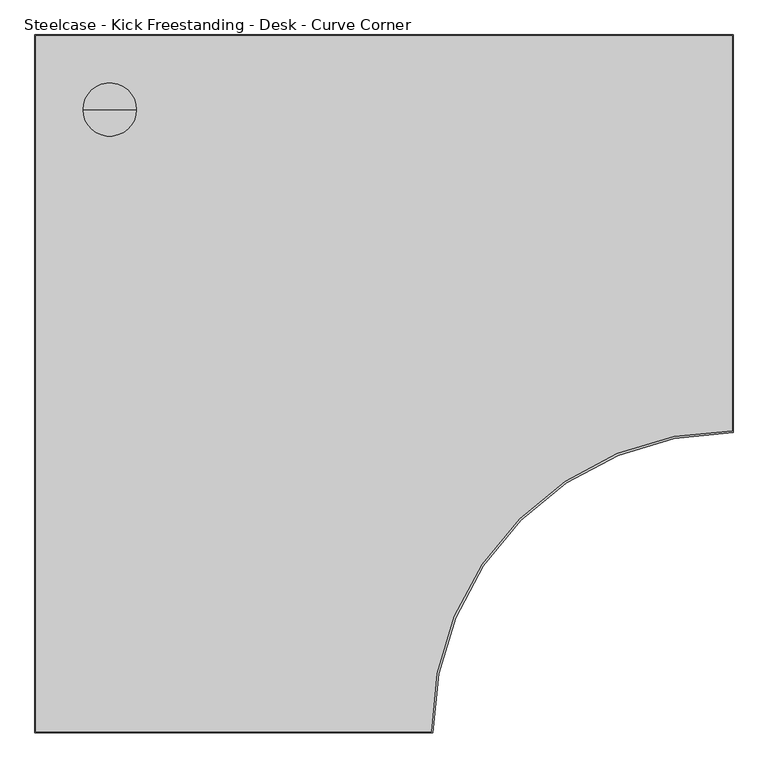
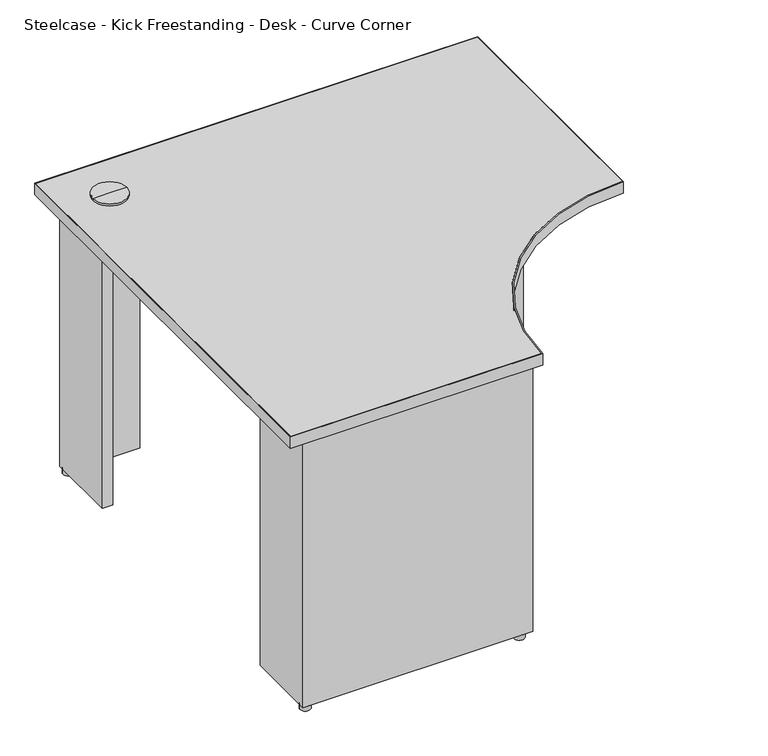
"""IFC4 building model written with IfcOpenShell, lengths in millimetres: furniture geometry, Steelcase - Kick Freestanding - Desk - Curve Corner : 24D x 42W - Left Full End Panel/Right Clear Access Support - LPL."""

from ifc_helpers import new_model, si_unit, point, frame, frame_2d, origin, origin_with_axes, place, context, project, spatial, polyline, circle_curve, trimmed, segment, composite_curve, outline, extrude, source, transform, mapped, element, save
from ifc_brep_helpers import plane_surface, cylinder_surface, advanced_brep


def steelcase_kick_freestanding_desk_curve_corner_b2214294(model_context):
    return source(origin(), model_context, "Body", "SolidModel", [
        extrude(outline(composite_curve([segment(trimmed(circle_curve(frame_2d((566.7971133, -1039.8759893)), 12.7), [point((554.0971133, -1039.8759893))], [point((579.4971133, -1039.8759893))], False, "CARTESIAN"), True, "CONTINUOUS"), segment(trimmed(circle_curve(frame_2d((566.7971133, -1039.8759893)), 12.7), [point((579.4971133, -1039.8759893))], [point((554.0971133, -1039.8759893))], False, "CARTESIAN"), True, "CONTINUOUS")], self_intersect=False)), origin_with_axes(), (0.0, 0.0, 1.0), 12.446),
        extrude(outline(polyline([(874.0393822, -63.5), (874.0393822, -38.1), (1051.8393579, -38.1), (1051.8393579, -215.8999939), (1025.9313463, -215.8999939), (1025.9313463, -63.5), (874.0393822, -63.5)])), frame((0.0, 0.0, 12.446), z_axis=(0.0, 0.0, 1.0), x_axis=(1.0, 0.0, 0.0)), (0.0, 0.0, 1.0), 682.498),
        extrude(outline(polyline([(215.8999939, -63.5), (63.5, -63.5), (63.5, -215.8999939), (38.1, -215.8999939), (38.1, -38.1), (215.8999939, -38.1), (215.8999939, -63.5)])), frame((0.0, 0.0, 12.446), z_axis=(0.0, 0.0, 1.0), x_axis=(1.0, 0.0, 0.0)), (0.0, 0.0, 1.0), 682.498),
        extrude(outline(polyline([(63.5, -875.0300194), (63.5, -1027.4300194), (161.3662, -1027.4300194), (161.3662, -1047.0895822), (261.0866, -1047.0895822), (261.0866, -1027.4300194), (369.824, -1027.4300194), (369.824, -1047.0895822), (469.5444, -1047.0895822), (469.5444, -1027.4300194), (592.582, -1027.4300194), (592.582, -1052.8299952), (38.1, -1052.8299952), (38.1, -875.0300194), (63.5, -875.0300194)])), frame((0.0, 0.0, 12.446), z_axis=(0.0, 0.0, 1.0), x_axis=(1.0, 0.0, 0.0)), (0.0, 0.0, 1.0), 682.498),
        advanced_brep(
        [(114.3, -114.3, 728.98), (154.94, -114.3, 728.98), (73.66, -114.3, 728.98), (76.1699693, -114.3, 694.944), (152.4300307, -114.3, 694.944), (114.3, -114.3, 694.944), (76.1699693, -114.3, 723.9), (152.4300307, -114.3, 723.9), (73.66, -114.3, 723.9), (154.94, -114.3, 723.9)],
        [
            (0, 1),
            (1, 2, circle_curve(frame((114.3, -114.3, 728.98), z_axis=(0.0, 0.0, 1.0), x_axis=(1.0, 0.0, 0.0)), 40.64)),
            (2, 0),
            (2, 1, circle_curve(frame((114.3, -114.3, 728.98), z_axis=(0.0, 0.0, 1.0), x_axis=(1.0, 0.0, 0.0)), 40.64)),
            (3, 4, circle_curve(frame((114.3, -114.3, 694.944), z_axis=(0.0, 0.0, -1.0), x_axis=(1.0, 0.0, 0.0)), 38.1300307)),
            (4, 5),
            (5, 3),
            (4, 3, circle_curve(frame((114.3, -114.3, 694.944), z_axis=(0.0, 0.0, -1.0), x_axis=(1.0, 0.0, 0.0)), 38.1300307)),
            (6, 7, circle_curve(frame((114.3, -114.3, 723.9), z_axis=(0.0, 0.0, -1.0), x_axis=(1.0, 0.0, 0.0)), 38.1300307)),
            (7, 4),
            (3, 6),
            (7, 6, circle_curve(frame((114.3, -114.3, 723.9), z_axis=(0.0, 0.0, -1.0), x_axis=(1.0, 0.0, 0.0)), 38.1300307)),
            (8, 9, circle_curve(frame((114.3, -114.3, 723.9), z_axis=(0.0, 0.0, -1.0), x_axis=(1.0, 0.0, 0.0)), 40.64)),
            (9, 7),
            (6, 8),
            (9, 8, circle_curve(frame((114.3, -114.3, 723.9), z_axis=(0.0, 0.0, -1.0), x_axis=(1.0, 0.0, 0.0)), 40.64)),
            (1, 9),
            (8, 2),
        ],
        [
            plane_surface(frame((114.3, -114.3, 728.98), z_axis=(0.0, 0.0, 1.0), x_axis=(1.0, 0.0, 0.0))),
            plane_surface(frame((114.3, -114.3, 694.944), z_axis=(0.0, 0.0, -1.0), x_axis=(1.0, 0.0, 0.0))),
            cylinder_surface(frame((114.3, -114.3, 728.98), z_axis=(0.0, 0.0, 1.0), x_axis=(1.0, 0.0, 0.0)), 38.1300307),
            plane_surface(frame((114.3, -114.3, 723.9), z_axis=(0.0, 0.0, -1.0), x_axis=(1.0, 0.0, 0.0))),
            cylinder_surface(frame((114.3, -114.3, 728.98), z_axis=(0.0, 0.0, 1.0), x_axis=(1.0, 0.0, 0.0)), 40.64),
        ],
        [
            (0, [[1, 2, 3]]),
            (0, [[-3, 4, -1]]),
            (1, [[5, 6, 7]]),
            (1, [[8, -7, -6]]),
            (2, [[9, 10, -5, 11]]),
            (2, [[12, -11, -8, -10]]),
            (3, [[13, 14, -9, 15]]),
            (3, [[16, -15, -12, -14]]),
            (4, [[-2, 17, -13, 18]]),
            (4, [[-4, -18, -16, -17]]),
        ],
    ),
        extrude(outline(composite_curve([segment(trimmed(circle_curve(frame_2d((50.8, -50.8)), 12.7), [point((38.1, -50.8))], [point((63.5, -50.8))], False, "CARTESIAN"), True, "CONTINUOUS"), segment(trimmed(circle_curve(frame_2d((50.8, -50.8)), 12.7), [point((63.5, -50.8))], [point((38.1, -50.8))], False, "CARTESIAN"), True, "CONTINUOUS")], self_intersect=False)), origin_with_axes(), (0.0, 0.0, 1.0), 12.446),
        extrude(outline(composite_curve([segment(trimmed(circle_curve(frame_2d((50.8, -1040.1300073)), 12.7484998), [point((38.0515002, -1040.1300073))], [point((63.5484998, -1040.1300073))], False, "CARTESIAN"), True, "CONTINUOUS"), segment(trimmed(circle_curve(frame_2d((50.8, -1040.1300073)), 12.7484998), [point((63.5484998, -1040.1300073))], [point((38.0515002, -1040.1300073))], False, "CARTESIAN"), True, "CONTINUOUS")], self_intersect=False)), origin_with_axes(), (0.0, 0.0, 1.0), 12.446),
        extrude(outline(composite_curve([segment(trimmed(circle_curve(frame_2d((1038.8853521, -50.8)), 12.7), [point((1026.1853521, -50.8))], [point((1051.5853521, -50.8))], False, "CARTESIAN"), True, "CONTINUOUS"), segment(trimmed(circle_curve(frame_2d((1038.8853521, -50.8)), 12.7), [point((1051.5853521, -50.8))], [point((1026.1853521, -50.8))], False, "CARTESIAN"), True, "CONTINUOUS")], self_intersect=False)), origin_with_axes(), (0.0, 0.0, 1.0), 12.446),
        extrude(outline(composite_curve([segment(polyline([(0.9906, -1065.8093628), (0.9906, -0.9906), (1065.8093628, -0.9906), (1065.8093628, -605.3354109)]), True, "CONTINUOUS"), segment(trimmed(circle_curve(frame_2d((1064.5393458, -1064.5393458)), 459.2056912), [point((1065.8093628, -605.3354109))], [point((605.3354109, -1065.8093628))], True, "CARTESIAN"), True, "CONTINUOUS"), segment(polyline([(605.3354109, -1065.8093628), (0.9906, -1065.8093628)]), True, "CONTINUOUS")], self_intersect=False)), frame((0.0, 0.0, 694.944), z_axis=(0.0, 0.0, 1.0), x_axis=(1.0, 0.0, 0.0)), (0.0, 0.0, 1.0), 28.956),
        extrude(outline(composite_curve([segment(polyline([(1066.8, 0.0), (1066.8, -608.332629)]), True, "CONTINUOUS"), segment(trimmed(circle_curve(frame_2d((1065.529983, -1065.529983)), 457.199118), [point((1066.8, -608.332629))], [point((608.332629, -1066.8))], True, "CARTESIAN"), True, "CONTINUOUS"), segment(polyline([(608.332629, -1066.8), (0.0, -1066.8), (0.0, 0.0), (1066.8, 0.0)]), True, "CONTINUOUS")], self_intersect=False), holes=[composite_curve([segment(polyline([(1065.8093628, -0.9906), (0.9906, -0.9906), (0.9906, -1065.8093628), (605.3354109, -1065.8093628)]), True, "CONTINUOUS"), segment(trimmed(circle_curve(frame_2d((1064.5393458, -1064.5393458)), 459.2056912), [point((605.3354109, -1065.8093628))], [point((1065.8093628, -605.3354109))], False, "CARTESIAN"), True, "CONTINUOUS"), segment(polyline([(1065.8093628, -605.3354109), (1065.8093628, -0.9906)]), True, "CONTINUOUS")], self_intersect=False)]), frame((0.0, 0.0, 694.944), z_axis=(0.0, 0.0, 1.0), x_axis=(1.0, 0.0, 0.0)), (0.0, 0.0, 1.0), 28.956),
    ])


if __name__ == "__main__":
    model = new_model("IFC4")
    model_context = context("Model", 3, world=origin())
    ifc_project = project(units=[si_unit("LENGTHUNIT", "METRE", prefix="MILLI")], contexts=[model_context])
    site = spatial("IfcSite", under=ifc_project)
    building = spatial("IfcBuilding", under=site)
    placement = place(None, origin())
    steelcase_kick_freestanding_desk_curve_corner_shape = steelcase_kick_freestanding_desk_curve_corner_b2214294(model_context)
    element("IfcFurniture", 1, ObjectType="Steelcase - Kick Freestanding - Desk - Curve Corner : 24D x 42W - Left Full End Panel/Right Clear Access Support - LPL", at=placement, inside=building, context=model_context, shape_type="MappedRepresentation", body=[
        mapped(steelcase_kick_freestanding_desk_curve_corner_shape, transform((0.0, 0.0, 0.0), x_axis=(1.0, 0.0, 0.0), y_axis=(0.0, 1.0, 0.0), z_axis=(0.0, 0.0, 1.0))),
    ])
    save(model, "model.ifc")
